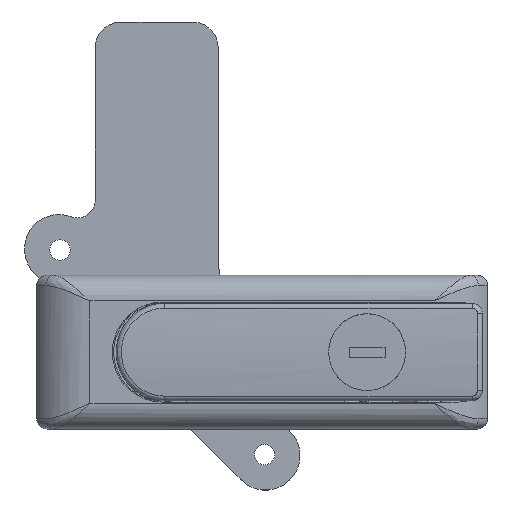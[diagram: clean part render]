
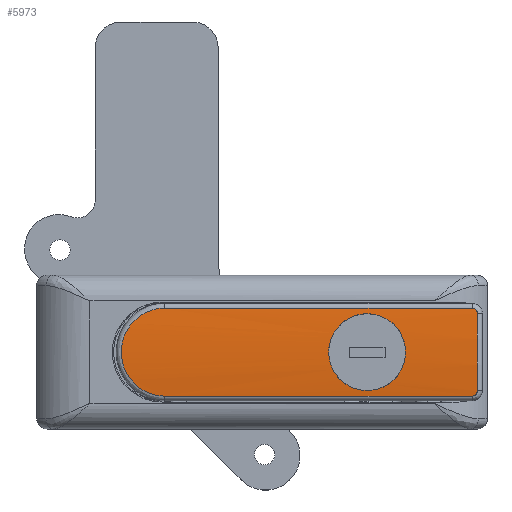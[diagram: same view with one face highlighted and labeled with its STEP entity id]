
A CAD part, top view. The second image highlights one B-rep face of the part: STEP entity #5973.
In plain terms, the highlighted cylindrical face has radius 90.5 mm (diameter 181 mm), a partial arc.
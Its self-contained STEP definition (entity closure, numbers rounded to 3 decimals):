
#126=B_SPLINE_CURVE_WITH_KNOTS('',3,(#10058,#10059,#10060,#10061,#10062),
 .UNSPECIFIED.,.F.,.F.,(4,1,4),(0.,0.09,0.157),
 .UNSPECIFIED.);
#128=B_SPLINE_CURVE_WITH_KNOTS('',3,(#10102,#10103,#10104,#10105,#10106),
 .UNSPECIFIED.,.F.,.F.,(4,1,4),(0.,0.09,
0.157),.UNSPECIFIED.);
#130=B_SPLINE_CURVE_WITH_KNOTS('',3,(#10176,#10177,#10178,#10179,#10180,
#10181,#10182,#10183,#10184,#10185),.UNSPECIFIED.,.F.,.F.,(4,1,1,1,1,1,
1,4),(0.,0.382,0.763,1.145,
1.527,1.908,2.29,2.672),
 .UNSPECIFIED.);
#133=B_SPLINE_CURVE_WITH_KNOTS('',3,(#10235,#10236,#10237,#10238,#10239,
#10240,#10241,#10242,#10243,#10244,#10245,#10246,#10247,#10248,#10249,#10250,
#10251,#10252,#10253),.UNSPECIFIED.,.F.,.F.,(4,2,2,2,3,2,2,2,4),(3.392,
3.675,3.957,4.24,4.522,4.805,
5.088,5.37,5.653),.UNSPECIFIED.);
#134=B_SPLINE_CURVE_WITH_KNOTS('',3,(#10254,#10255,#10256,#10257,#10258,
#10259,#10260,#10261,#10262,#10263,#10264,#10265,#10266,#10267,#10268,#10269,
#10270,#10271),.UNSPECIFIED.,.F.,.F.,(4,2,2,2,2,2,2,2,4),(1.131,
1.413,1.696,1.979,2.261,2.544,
2.827,3.109,3.392),.UNSPECIFIED.);
#288=FACE_BOUND('',#1054,.T.);
#659=FACE_OUTER_BOUND('',#1053,.T.);
#1053=EDGE_LOOP('',(#4830,#4831,#4832,#4833,#4834,#4835));
#1054=EDGE_LOOP('',(#4836,#4837));
#1483=LINE('',#10112,#1935);
#1485=LINE('',#10188,#1937);
#1935=VECTOR('',#7857,60.);
#1937=VECTOR('',#7863,60.);
#2343=CIRCLE('',#6536,90.5);
#2759=VERTEX_POINT('',#10047);
#2762=VERTEX_POINT('',#10056);
#2763=VERTEX_POINT('',#10064);
#2765=VERTEX_POINT('',#10094);
#2767=VERTEX_POINT('',#10108);
#2769=VERTEX_POINT('',#10163);
#2786=VERTEX_POINT('',#10233);
#2787=VERTEX_POINT('',#10234);
#3484=EDGE_CURVE('',#2762,#2759,#126,.T.);
#3487=EDGE_CURVE('',#2759,#2763,#2343,.T.);
#3490=EDGE_CURVE('',#2763,#2765,#128,.T.);
#3493=EDGE_CURVE('',#2765,#2767,#1483,.T.);
#3496=EDGE_CURVE('',#2767,#2769,#130,.T.);
#3498=EDGE_CURVE('',#2769,#2762,#1485,.T.);
#3518=EDGE_CURVE('',#2786,#2787,#133,.T.);
#3519=EDGE_CURVE('',#2787,#2786,#134,.T.);
#4830=ORIENTED_EDGE('',*,*,#3484,.F.);
#4831=ORIENTED_EDGE('',*,*,#3498,.F.);
#4832=ORIENTED_EDGE('',*,*,#3496,.F.);
#4833=ORIENTED_EDGE('',*,*,#3493,.F.);
#4834=ORIENTED_EDGE('',*,*,#3490,.F.);
#4835=ORIENTED_EDGE('',*,*,#3487,.F.);
#4836=ORIENTED_EDGE('',*,*,#3518,.F.);
#4837=ORIENTED_EDGE('',*,*,#3519,.F.);
#5719=CYLINDRICAL_SURFACE('',#6553,90.5);
#5973=ADVANCED_FACE('',(#659,#288),#5719,.T.);
#6536=AXIS2_PLACEMENT_3D('',#10068,#7848,#7849);
#6553=AXIS2_PLACEMENT_3D('',#10232,#7895,#7896);
#7848=DIRECTION('center_axis',(1.,0.,0.));
#7849=DIRECTION('ref_axis',(0.,0.,1.));
#7857=DIRECTION('',(-1.,0.,0.));
#7863=DIRECTION('',(1.,0.,0.));
#7895=DIRECTION('center_axis',(-1.,0.,0.));
#7896=DIRECTION('ref_axis',(0.,0.105,0.994));
#10047=CARTESIAN_POINT('',(34.75,7.584,-0.318));
#10056=CARTESIAN_POINT('',(33.75,8.595,-0.409));
#10058=CARTESIAN_POINT('Ctrl Pts',(33.75,8.595,-0.409));
#10059=CARTESIAN_POINT('Ctrl Pts',(34.05,8.595,-0.409));
#10060=CARTESIAN_POINT('Ctrl Pts',(34.568,8.34,-0.384));
#10061=CARTESIAN_POINT('Ctrl Pts',(34.75,7.81,-0.337));
#10062=CARTESIAN_POINT('Ctrl Pts',(34.75,7.584,-0.318));
#10064=CARTESIAN_POINT('',(34.75,-7.584,-0.318));
#10068=CARTESIAN_POINT('Origin',(34.75,0.,-90.5));
#10094=CARTESIAN_POINT('',(33.75,-8.595,-0.409));
#10102=CARTESIAN_POINT('Ctrl Pts',(34.75,-7.584,-0.318));
#10103=CARTESIAN_POINT('Ctrl Pts',(34.75,-7.886,-0.344));
#10104=CARTESIAN_POINT('Ctrl Pts',(34.5,-8.409,-0.391));
#10105=CARTESIAN_POINT('Ctrl Pts',(33.975,-8.595,-0.409));
#10106=CARTESIAN_POINT('Ctrl Pts',(33.75,-8.595,-0.409));
#10108=CARTESIAN_POINT('',(-26.25,-8.595,-0.409));
#10112=CARTESIAN_POINT('',(35.75,-8.595,-0.409));
#10163=CARTESIAN_POINT('',(-26.25,8.595,-0.409));
#10176=CARTESIAN_POINT('Ctrl Pts',(-26.25,-8.595,-0.409));
#10177=CARTESIAN_POINT('Ctrl Pts',(-27.522,-8.595,
-0.409));
#10178=CARTESIAN_POINT('Ctrl Pts',(-30.066,-8.007,
-0.35));
#10179=CARTESIAN_POINT('Ctrl Pts',(-33.122,-5.543,
-0.152));
#10180=CARTESIAN_POINT('Ctrl Pts',(-34.821,-1.98,
0.007));
#10181=CARTESIAN_POINT('Ctrl Pts',(-34.819,1.98,0.006));
#10182=CARTESIAN_POINT('Ctrl Pts',(-33.123,5.543,-0.152));
#10183=CARTESIAN_POINT('Ctrl Pts',(-30.065,8.007,-0.35));
#10184=CARTESIAN_POINT('Ctrl Pts',(-27.522,8.595,-0.409));
#10185=CARTESIAN_POINT('Ctrl Pts',(-26.25,8.595,-0.409));
#10188=CARTESIAN_POINT('',(35.75,8.595,-0.409));
#10232=CARTESIAN_POINT('Origin',(35.75,0.,-90.5));
#10233=CARTESIAN_POINT('',(20.75,0.,0.));
#10234=CARTESIAN_POINT('',(5.75,0.,0.));
#10235=CARTESIAN_POINT('Ctrl Pts',(20.75,0.,0.));
#10236=CARTESIAN_POINT('Ctrl Pts',(20.75,0.942,0.));
#10237=CARTESIAN_POINT('Ctrl Pts',(20.562,1.947,-0.016));
#10238=CARTESIAN_POINT('Ctrl Pts',(19.796,3.795,-0.075));
#10239=CARTESIAN_POINT('Ctrl Pts',(19.219,4.638,-0.116));
#10240=CARTESIAN_POINT('Ctrl Pts',(17.888,5.969,-0.195));
#10241=CARTESIAN_POINT('Ctrl Pts',(17.045,6.546,-0.236));
#10242=CARTESIAN_POINT('Ctrl Pts',(15.197,7.312,-0.295));
#10243=CARTESIAN_POINT('Ctrl Pts',(14.192,7.5,-0.311));
#10244=CARTESIAN_POINT('Ctrl Pts',(13.25,7.5,-0.311));
#10245=CARTESIAN_POINT('Ctrl Pts',(12.308,7.5,-0.311));
#10246=CARTESIAN_POINT('Ctrl Pts',(11.303,7.312,-0.295));
#10247=CARTESIAN_POINT('Ctrl Pts',(9.455,6.546,-0.236));
#10248=CARTESIAN_POINT('Ctrl Pts',(8.612,5.969,-0.195));
#10249=CARTESIAN_POINT('Ctrl Pts',(7.281,4.638,-0.116));
#10250=CARTESIAN_POINT('Ctrl Pts',(6.704,3.795,-0.075));
#10251=CARTESIAN_POINT('Ctrl Pts',(5.938,1.947,-0.016));
#10252=CARTESIAN_POINT('Ctrl Pts',(5.75,0.942,0.));
#10253=CARTESIAN_POINT('Ctrl Pts',(5.75,0.,0.));
#10254=CARTESIAN_POINT('Ctrl Pts',(5.75,0.,0.));
#10255=CARTESIAN_POINT('Ctrl Pts',(5.75,-0.942,0.));
#10256=CARTESIAN_POINT('Ctrl Pts',(5.938,-1.947,-0.016));
#10257=CARTESIAN_POINT('Ctrl Pts',(6.704,-3.795,-0.075));
#10258=CARTESIAN_POINT('Ctrl Pts',(7.281,-4.638,-0.116));
#10259=CARTESIAN_POINT('Ctrl Pts',(8.612,-5.969,-0.195));
#10260=CARTESIAN_POINT('Ctrl Pts',(9.455,-6.546,-0.236));
#10261=CARTESIAN_POINT('Ctrl Pts',(11.303,-7.312,-0.295));
#10262=CARTESIAN_POINT('Ctrl Pts',(12.308,-7.5,-0.311));
#10263=CARTESIAN_POINT('Ctrl Pts',(14.192,-7.5,-0.311));
#10264=CARTESIAN_POINT('Ctrl Pts',(15.197,-7.312,-0.295));
#10265=CARTESIAN_POINT('Ctrl Pts',(17.045,-6.546,-0.236));
#10266=CARTESIAN_POINT('Ctrl Pts',(17.888,-5.969,-0.195));
#10267=CARTESIAN_POINT('Ctrl Pts',(19.219,-4.638,-0.116));
#10268=CARTESIAN_POINT('Ctrl Pts',(19.796,-3.795,-0.075));
#10269=CARTESIAN_POINT('Ctrl Pts',(20.562,-1.947,-0.016));
#10270=CARTESIAN_POINT('Ctrl Pts',(20.75,-0.942,0.));
#10271=CARTESIAN_POINT('Ctrl Pts',(20.75,0.,0.));
